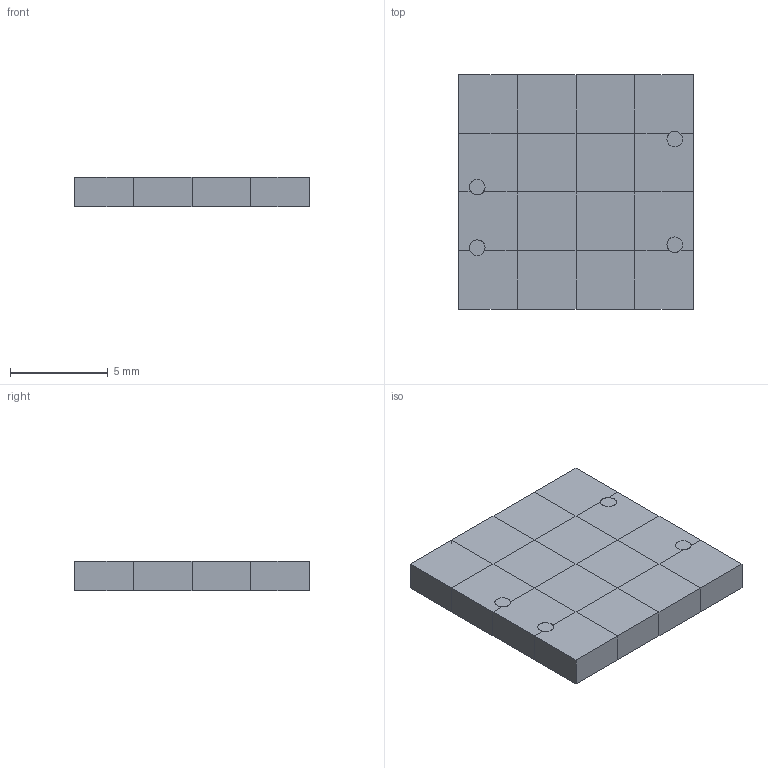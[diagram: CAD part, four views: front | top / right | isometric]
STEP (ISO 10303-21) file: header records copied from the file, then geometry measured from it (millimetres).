
FILE_DESCRIPTION(('Open CASCADE Model'),'2;1');
FILE_NAME('Open CASCADE Shape Model','2026-11-27T10:07:02',('Author'),( 'Open CASCADE'),'Open CASCADE STEP processor 7.9','Open CASCADE 7.9' ,'Unknown');
FILE_SCHEMA(('AUTOMOTIVE_DESIGN { 1 0 10303 214 1 1 1 1 }'));
Length unit declared in the file: millimetre
Products named in the file (3): manifold_N3; fluid; solid
Assembly tree (2 placements, depth 2):
  manifold_N3
    fluid
    solid
Bounding box: 12 x 12 x 1.5 mm (x, y, z)
Volume: 216 mm3; surface area: 1394.2 mm2
Topology: 2 solids, 2 shells, 1136 faces, 3868 edges, 2182 vertices
Faces by surface type: plane 1128, cylinder 8
Full cylindrical faces by diameter (mm): 0.8 x8
Entity records: 91180 total; most frequent: CARTESIAN_POINT 15867, DIRECTION 13688, LINE 11118, VECTOR 11118, ORIENTED_EDGE 7736, PCURVE 7736, DEFINITIONAL_REPRESENTATION 7736, EDGE_CURVE 3868
